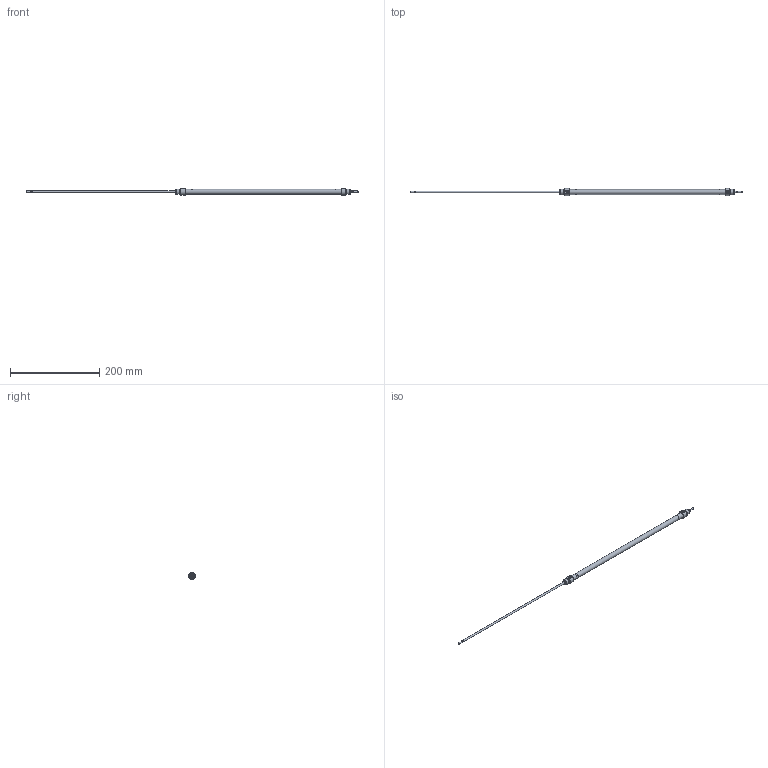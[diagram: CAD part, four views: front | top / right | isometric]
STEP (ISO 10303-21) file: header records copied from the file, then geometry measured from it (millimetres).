
FILE_DESCRIPTION( ( 'STEP AP203' ), '1' );
FILE_NAME( '//expscmdclustefs.cadenas.external/client_exchange/iodir/jobs/output/wkb68274778_no0/STEP/M101-010-0320-M__0__2_03.stp', ' ', ( ' ' ), ( ' ' ), 'PSStep 15.0.47', 'PARTsolutions', ' ' );
FILE_SCHEMA( ( 'CONFIG_CONTROL_DESIGN' ) );
Length unit declared in the file: millimetre
Products named in the file (3): M101-010-0320-M [0]; HI_M101-010-0320-M-[0]-z; HI_M101-010-0320-M-[0]-k
Assembly tree (2 placements, depth 2):
  M101-010-0320-M [0]
    HI_M101-010-0320-M-[0]-z
    HI_M101-010-0320-M-[0]-k
Bounding box: 746 x 15.77 x 14.87 mm (x, y, z)
Volume: 24611.6 mm3; surface area: 35734.3 mm2
Topology: 2 solids, 2 shells, 71 faces, 145 edges, 88 vertices
Faces by surface type: plane 32, cylinder 23, cone 14, torus 2
Full cylindrical faces by diameter (mm): 3.141 x2, 4 x6, 4.134 x2, 10 x2, 10.466 x4, 11.3 x1, 12 x4
Entity records: 1838 total; most frequent: CARTESIAN_POINT 358, DIRECTION 312, ORIENTED_EDGE 212, AXIS2_PLACEMENT_3D 140, EDGE_LOOP 120, EDGE_CURVE 106, FACE_OUTER_BOUND 94, VERTEX_POINT 82
